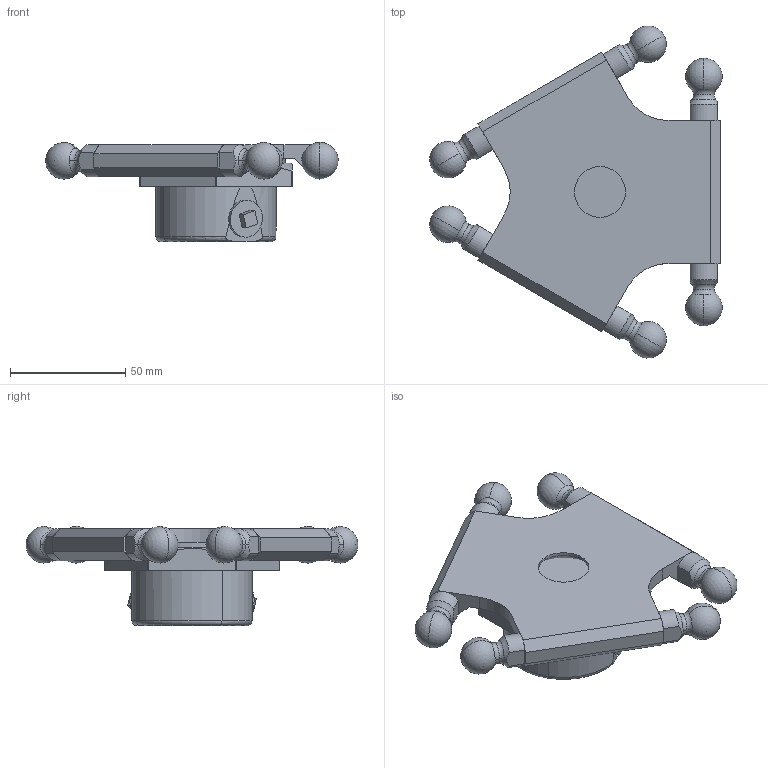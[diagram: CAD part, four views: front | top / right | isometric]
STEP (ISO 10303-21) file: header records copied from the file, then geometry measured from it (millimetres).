
FILE_DESCRIPTION (( 'STEP AP214' ), '1' );
FILE_NAME ('IRB360_X-1130-STD-4D_rev03_PLATE_CAD.STEP', '2023-12-04T07:59:14', ( '' ), ( '' ), 'SwSTEP 2.0', 'SolidWorks 2022', '' );
FILE_SCHEMA (( 'AUTOMOTIVE_DESIGN' ));
Length unit declared in the file: millimetre
Products named in the file (1): IRB360_X-1130-STD-4D_rev03_PLATE_CAD
Bounding box: 126.66 x 143.77 x 42.94 mm (x, y, z)
Volume: 165244.3 mm3; surface area: 64927.2 mm2
Topology: 12 solids, 12 shells, 258 faces, 634 edges, 408 vertices
Faces by surface type: cylinder 93, plane 93, torus 30, cone 30, sphere 12
Entity records: 8264 total; most frequent: CARTESIAN_POINT 1889, DIRECTION 1359, ORIENTED_EDGE 1208, EDGE_CURVE 604, AXIS2_PLACEMENT_3D 556, VERTEX_POINT 390, CIRCLE 297, EDGE_LOOP 294
